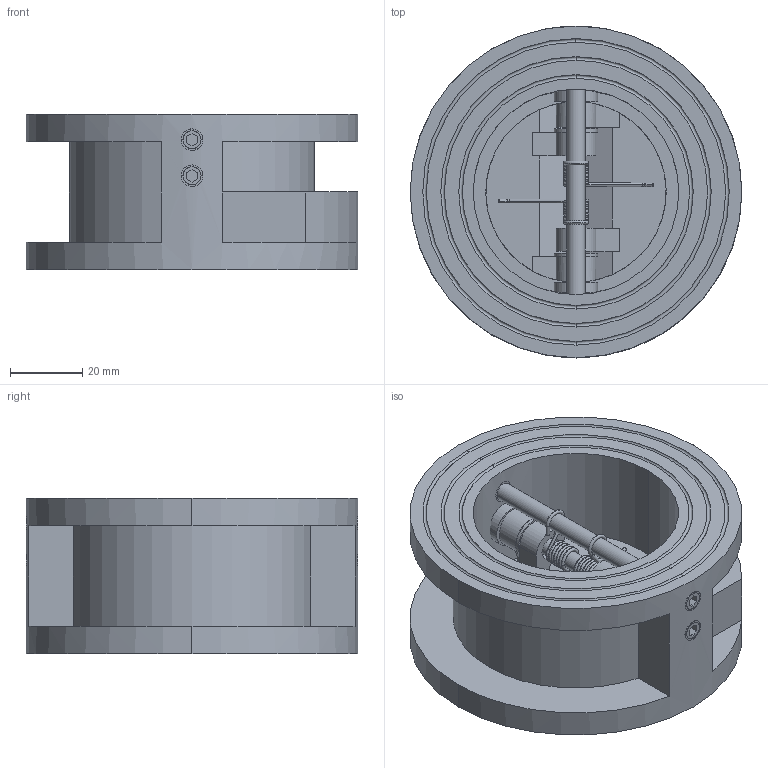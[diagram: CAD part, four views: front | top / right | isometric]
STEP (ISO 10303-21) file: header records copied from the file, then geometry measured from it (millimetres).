
FILE_DESCRIPTION((''),'2;1');
FILE_NAME('CV-16WS_SB_ASM','2026-03-23T',('user'),(''),'PRO/ENGINEER BY PARAMETRIC TECHNOLOGY CORPORATION, 2011220','PRO/ENGINEER BY PARAMETRIC TECHNOLOGY CORPORATION, 2011220','');
FILE_SCHEMA(('CONFIG_CONTROL_DESIGN'));
Length unit declared in the file: millimetre
Products named in the file (10): CV-16WS_KORPUS; CV-16WS_DET_2; CV-16WS_DET_3; CV-16WS_DET_4_SHTOK; CV-16WS_DET_5; CV-16WS_DET_6; CV-16WS_DET_7; CV-16WS_DET_8; CV-16WS_DET_9; CV-16WS_SB_ASM
Assembly tree (21 placements, depth 2):
  CV-16WS_SB_ASM
    CV-16WS_KORPUS
    CV-16WS_DET_2  x2
    CV-16WS_DET_3  x2
    CV-16WS_DET_4_SHTOK  x2
    CV-16WS_DET_5  x2
    CV-16WS_DET_6  x2
    CV-16WS_DET_7  x4
    CV-16WS_DET_8  x4
    CV-16WS_DET_9  x2
Bounding box: 92 x 92 x 43 mm (x, y, z)
Volume: 149272 mm3; surface area: 56368.2 mm2
Topology: 21 solids, 29 shells, 305 faces, 706 edges, 458 vertices
Faces by surface type: plane 141, cylinder 118, torus 26, bspline 8, cone 6, revolution 6
Entity records: 8526 total; most frequent: CARTESIAN_POINT 3914, DIRECTION 970, ORIENTED_EDGE 840, EDGE_CURVE 434, AXIS2_PLACEMENT_3D 386, VERTEX_POINT 283, EDGE_LOOP 221, VECTOR 195
